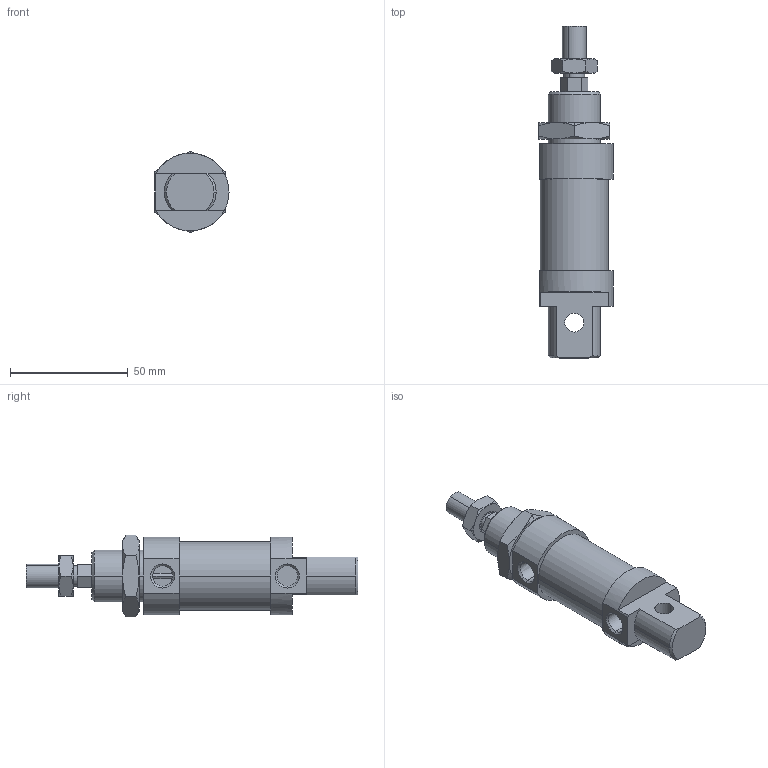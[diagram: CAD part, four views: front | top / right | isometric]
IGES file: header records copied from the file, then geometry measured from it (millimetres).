
Global section: file name: No Iges File Name specified; native system: AutoDesk Inventor R6.0; preprocessor: AutoDesk Inventor Iges Exporter R6.0; author: No Author specified; organization: No Organization specified; date: 20030405.074106; units: millimetre
Bounding box: 31.5 x 141 x 34.64 mm (x, y, z)
Volume: 68549.9 mm3; surface area: 18749.7 mm2
Topology: 4 solids, 4 shells, 125 faces, 285 edges, 174 vertices
Faces by surface type: plane 46, cone 38, bspline 21, cylinder 16, revolution 4
